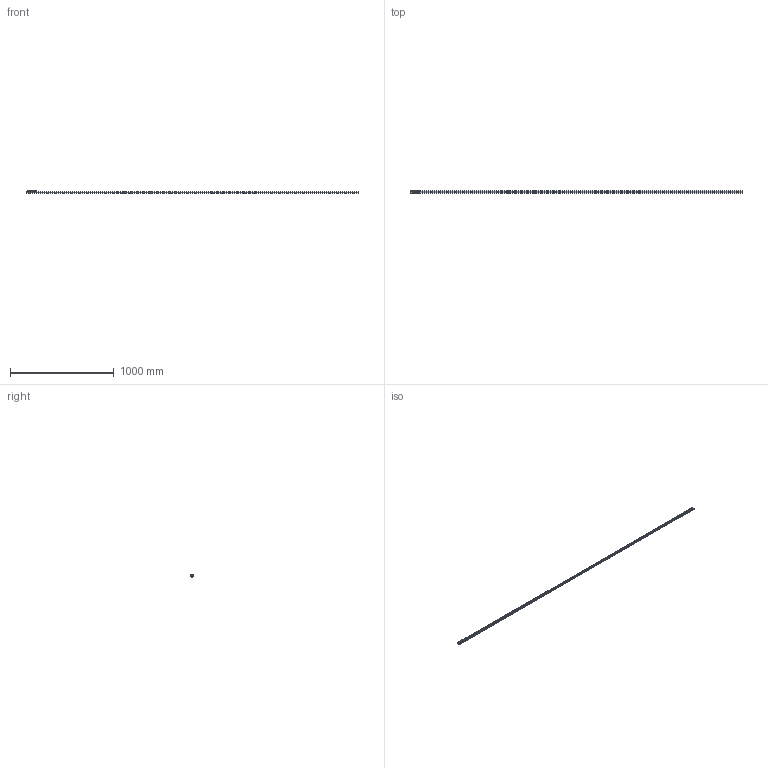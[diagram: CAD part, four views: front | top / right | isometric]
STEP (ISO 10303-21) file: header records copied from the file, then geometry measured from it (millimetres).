
FILE_DESCRIPTION( ( 'STEP AP214' ), '1' );
FILE_NAME( 'p:/temp/worker_21/temp/exporttempdir_5792_146_Qpqt3/format_0/TEN26-3200-CEN26-92.stp', '2020-05-08T18:54:49', ( 'License CC BY-ND 4.0' ), ( 'CADENAS' ), ' ', 'PARTsolutions', ' ' );
FILE_SCHEMA( ( 'AUTOMOTIVE_DESIGN { 1 0 10303 214 1 1 1 1 }' ) );
Length unit declared in the file: millimetre
Products named in the file (6): TEN26-3200-CEN26-92; _TEN 26-3200; _CEN26-92_1; _RLN26(11.2_M5); _RLA26(11.2_M5); _LAN-26
Assembly tree (8 placements, depth 2):
  TEN26-3200-CEN26-92
    _TEN 26-3200
    _CEN26-92_1
    _RLN26(11.2_M5)  x2
    _RLA26(11.2_M5)
    _LAN-26  x3
Bounding box: 3200 x 26 x 22 mm (x, y, z)
Volume: 343615.9 mm3; surface area: 291591.5 mm2
Topology: 8 solids, 8 shells, 273 faces, 621 edges, 391 vertices
Faces by surface type: plane 131, cylinder 109, cone 24, bspline 9
Full cylindrical faces by diameter (mm): 2.5 x2, 4.134 x5, 4.5 x3, 5 x6, 6.5 x40, 9.3 x3, 11.2 x6, 11.6 x6, 15.7 x6, 16.7 x6
Entity records: 6938 total; most frequent: CARTESIAN_POINT 985, DIRECTION 952, ORIENTED_EDGE 694, AXIS2_PLACEMENT_3D 412, EDGE_LOOP 392, EDGE_CURVE 347, VERTEX_POINT 277, FACE_OUTER_BOUND 264
